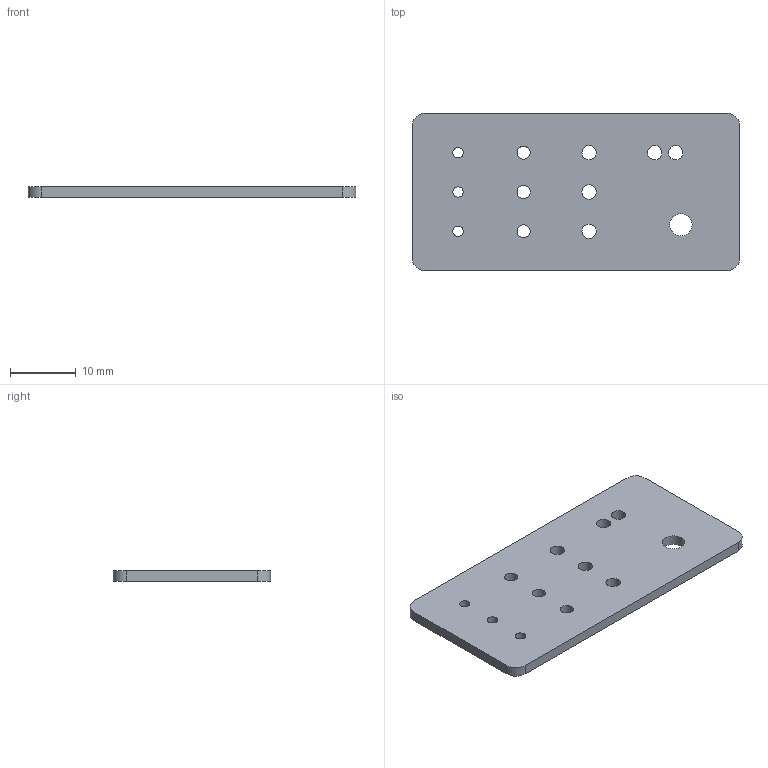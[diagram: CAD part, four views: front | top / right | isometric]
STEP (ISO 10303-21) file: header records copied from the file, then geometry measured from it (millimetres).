
FILE_DESCRIPTION(('Open CASCADE Model'),'2;1');
FILE_NAME('Open CASCADE Shape Model','2026-09-09T11:51:03',('Author'),( 'Open CASCADE'),'Open CASCADE STEP processor 7.7','Open CASCADE 7.7' ,'Unknown');
FILE_SCHEMA(('AUTOMOTIVE_DESIGN { 1 0 10303 214 1 1 1 1 }'));
Length unit declared in the file: millimetre
Products named in the file (1): Open CASCADE STEP translator 7.7 1
Bounding box: 50 x 24 x 1.6 mm (x, y, z)
Volume: 1844.8 mm3; surface area: 2664 mm2
Topology: 1 solids, 1 shells, 22 faces, 60 edges, 40 vertices
Faces by surface type: cylinder 16, plane 6
Full cylindrical faces by diameter (mm): 1.6 x3, 2 x3, 2.2 x5, 3.4 x1
Entity records: 1566 total; most frequent: CARTESIAN_POINT 267, DIRECTION 254, ORIENTED_EDGE 120, PCURVE 120, DEFINITIONAL_REPRESENTATION 120, LINE 116, VECTOR 116, EDGE_CURVE 60
